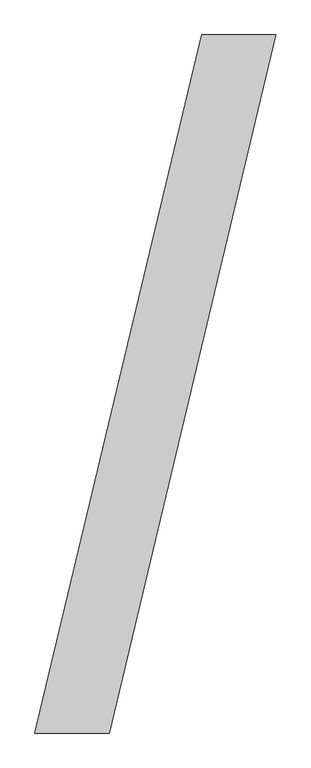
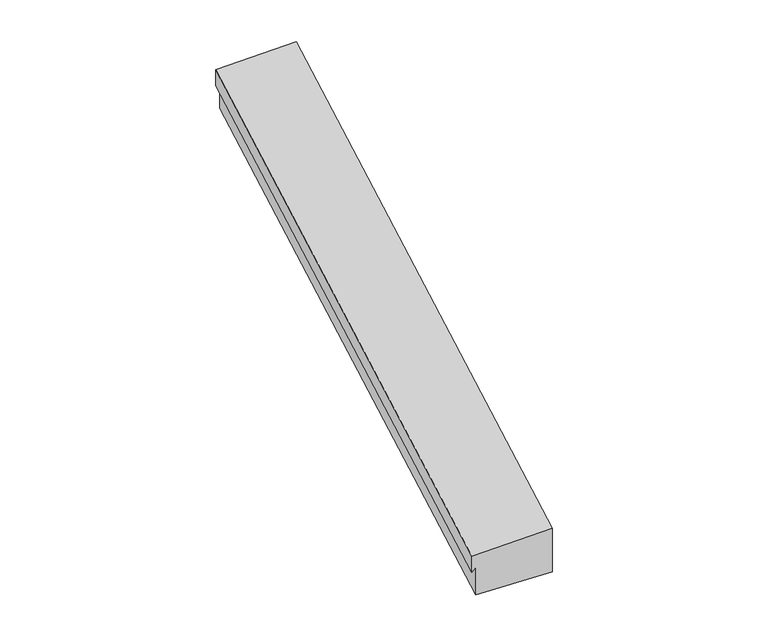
"""IFC4 building model written with IfcOpenShell, lengths in millimetres: proxy geometry, Contre-corniche N : contre-corniche N."""

from ifc_helpers import new_model, si_unit, origin, place, context, project, spatial, faceted_brep, source, transform, mapped, element, save


def generic_models_269a9715(model_context):
    return source(origin(), model_context, "Body", "Brep", [
        faceted_brep([(5421.9915557, 2900.0, 6608.5799063), (6038.8666255, 2900.0, 6619.2640108), (6038.8666255, 2900.0, 6269.249243), (5452.8353092, 2900.0, 6284.703456), (5452.8353092, 2900.0, 6508.5098669), (5421.9915557, 2900.0, 6478.5744211), (4653.6345839, -2900.0, 6674.043334), (4036.7595141, -2900.0, 6663.3592296), (4036.7595141, -2900.0, 6533.3537444), (4067.6032676, -2900.0, 6563.2891901), (4067.6032676, -2900.0, 6339.4827792), (4653.6345839, -2900.0, 6324.0285663)], [[[0, 1, 2, 3, 4, 5]], [[6, 7, 8, 9, 10, 11]], [[1, 0, 7, 6]], [[0, 5, 8, 7]], [[5, 4, 9, 8]], [[4, 3, 10, 9]], [[3, 2, 11, 10]], [[2, 1, 6, 11]]]),
    ])


if __name__ == "__main__":
    model = new_model("IFC4")
    model_context = context("Model", 3, world=origin())
    ifc_project = project(units=[si_unit("LENGTHUNIT", "METRE", prefix="MILLI")], contexts=[model_context])
    site = spatial("IfcSite", under=ifc_project)
    building = spatial("IfcBuilding", under=site)
    placement = place(None, origin())
    generic_models_shape = generic_models_269a9715(model_context)
    element("IfcBuildingElementProxy", 1, Name="Contre-corniche N : contre-corniche N", ObjectType="Contre-corniche N : contre-corniche N", at=placement, inside=building, context=model_context, shape_type="MappedRepresentation", body=[
        mapped(generic_models_shape, transform((0.0, 0.0, 0.0), x_axis=(1.0, 0.0, 0.0), y_axis=(0.0, 1.0, 0.0), z_axis=(0.0, 0.0, 1.0))),
    ])
    save(model, "model.ifc")
